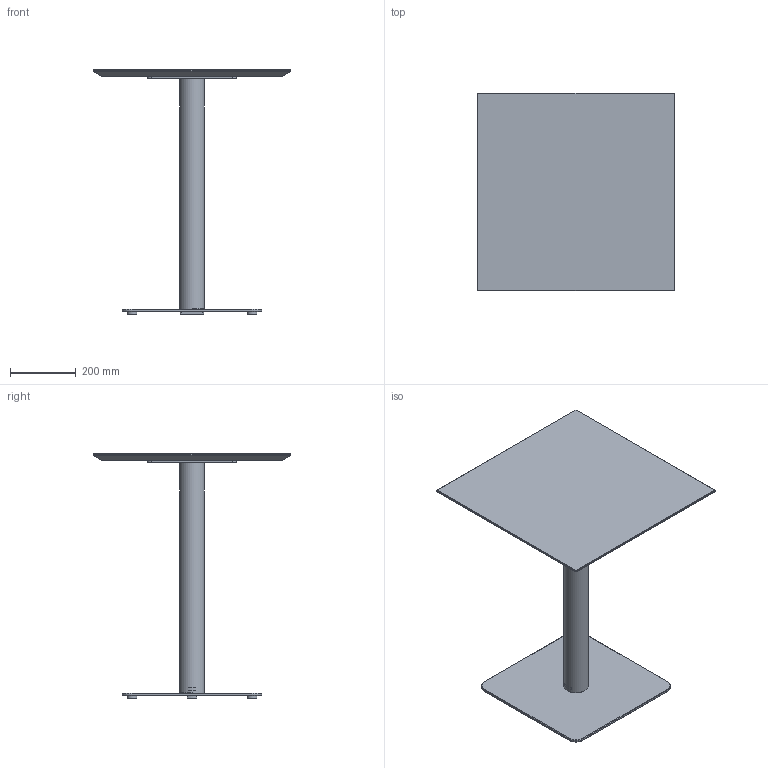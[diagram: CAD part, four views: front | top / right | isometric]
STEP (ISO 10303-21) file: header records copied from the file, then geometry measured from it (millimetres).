
FILE_DESCRIPTION( ('This file contains a STEP AP42 implementation' ,'as created by ZW3D STEP Interface translator.') ,'2;1' );
FILE_NAME( 'Henri - B_Carré - F4 - M5 - 600 x 600 x 750.stp' ,'24 912.173250', (''), ('ZWCAD Software Co.'), 'Version 1.0', 'ZW3D to STEP translator', '' );
FILE_SCHEMA(('AUTOMOTIVE_DESIGN { 1 0 10303 214 1 1 1 1 }'));
Length unit declared in the file: millimetre
Products named in the file (14): 0; PIED BISTROT PARAMETRIQUE_; COLONNE ACIER Ø76 V.02_; TUB-D076-02_; PLA-R76B-01_; CROIX ACIER 370 V.02_; CRX-X370-02_; SOCLE ACIER L 425x425 V.02_; SCL-R425-02_; PLA-R30A-01_; PLA-R30A-01; WUERTH 0276063020 Euro-screw 6.3x2 Verzinkt_; PLATEAU BISTROT PARAMETRIQUE_; insert_m6_13_
Assembly tree (22 placements, depth 3):
  0
  PIED BISTROT PARAMETRIQUE_
    COLONNE ACIER Ø76 V.02_
      TUB-D076-02_
      PLA-R76B-01_  x2
    CROIX ACIER 370 V.02_
      CRX-X370-02_
    SOCLE ACIER L 425x425 V.02_
      SCL-R425-02_
      PLA-R30A-01_
      PLA-R30A-01  x3
    WUERTH 0276063020 Euro-screw 6.3x2 Verzinkt_
    PLATEAU BISTROT PARAMETRIQUE_
      insert_m6_13_  x8
Bounding box: 600 x 600 x 744 mm (x, y, z)
Volume: 9120951.3 mm3; surface area: 1632396.4 mm2
Topology: 19 solids, 19 shells, 533 faces, 1306 edges, 818 vertices
Faces by surface type: plane 262, bspline 125, cylinder 98, cone 47, torus 1
Full cylindrical faces by diameter (mm): 4.88 x1, 6 x8, 6.3 x1, 8 x45, 12 x2, 14 x2, 30 x4, 72 x1, 76 x1
Entity records: 12210 total; most frequent: CARTESIAN_POINT 3408, ORIENTED_EDGE 1608, DIRECTION 1483, EDGE_CURVE 804, VERTEX_POINT 514, VECTOR 509, LINE 509, AXIS2_PLACEMENT_3D 487
